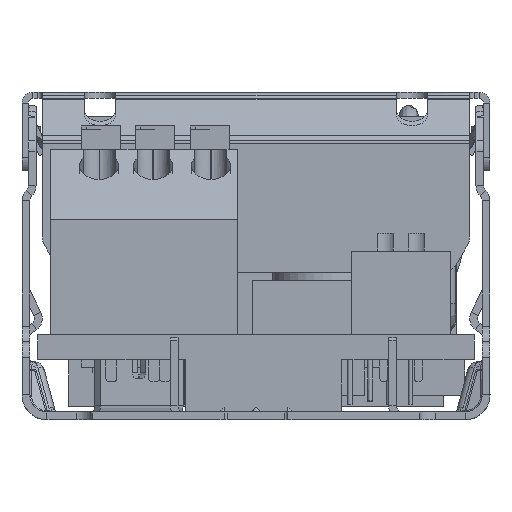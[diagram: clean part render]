
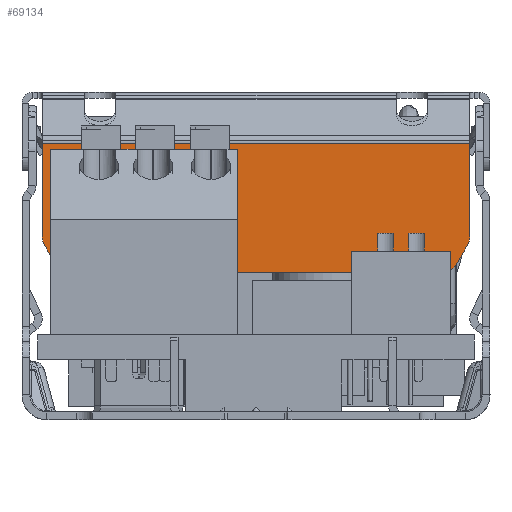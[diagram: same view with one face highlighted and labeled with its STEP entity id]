
A CAD part, left-side view. The second image highlights one B-rep face of the part: STEP entity #69134.
In plain terms, the highlighted planar face has unit normal (-1, 0, 0).
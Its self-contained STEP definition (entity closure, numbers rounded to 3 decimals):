
#63256=DIRECTION('',(0.,1.,0.));
#63257=VECTOR('',#63256,27.4);
#63258=CARTESIAN_POINT('',(-118.772,-12.555,
7.677));
#63259=LINE('',#63258,#63257);
#63264=CARTESIAN_POINT('',(-118.772,-11.555,
1.685));
#63265=DIRECTION('',(1.,0.,0.));
#63266=DIRECTION('',(0.,-1.,0.));
#63267=AXIS2_PLACEMENT_3D('',#63264,#63265,#63266);
#63269=DIRECTION('',(0.,0.5,-0.866));
#63270=VECTOR('',#63269,1.464);
#63271=CARTESIAN_POINT('',(-118.772,-12.421,
1.185));
#63272=LINE('',#63271,#63270);
#63273=CARTESIAN_POINT('',(-118.772,-10.823,
0.417));
#63274=DIRECTION('',(1.,0.,0.));
#63275=DIRECTION('',(0.,-0.866,-0.5));
#63276=AXIS2_PLACEMENT_3D('',#63273,#63274,#63275);
#63278=CARTESIAN_POINT('',(-118.772,13.113,
0.417));
#63279=DIRECTION('',(1.,0.,0.));
#63280=DIRECTION('',(0.,0.,-1.));
#63281=AXIS2_PLACEMENT_3D('',#63278,#63279,#63280);
#63283=DIRECTION('',(0.,0.5,0.866));
#63284=VECTOR('',#63283,1.464);
#63285=CARTESIAN_POINT('',(-118.772,13.979,
-0.083));
#63286=LINE('',#63285,#63284);
#63287=CARTESIAN_POINT('',(-118.772,13.845,
1.685));
#63288=DIRECTION('',(1.,0.,0.));
#63289=DIRECTION('',(0.,0.866,-0.5));
#63290=AXIS2_PLACEMENT_3D('',#63287,#63288,#63289);
#63292=DIRECTION('',(0.,0.,-1.));
#63293=VECTOR('',#63292,5.992);
#63294=CARTESIAN_POINT('',(-118.772,14.845,
7.677));
#63295=LINE('',#63294,#63293);
#63312=DIRECTION('',(0.,-1.,0.));
#63313=VECTOR('',#63312,23.936);
#63314=CARTESIAN_POINT('',(-118.772,13.113,
-0.583));
#63315=LINE('',#63314,#63313);
#63332=DIRECTION('',(0.,0.,1.));
#63333=VECTOR('',#63332,5.992);
#63334=CARTESIAN_POINT('',(-118.772,-12.555,
1.685));
#63335=LINE('',#63334,#63333);
#64921=CARTESIAN_POINT('',(-118.772,-12.555,
7.677));
#64922=VERTEX_POINT('',#64921);
#64925=CARTESIAN_POINT('',(-118.772,14.845,
7.677));
#64926=VERTEX_POINT('',#64925);
#64927=CARTESIAN_POINT('',(-118.772,14.845,
1.685));
#64928=VERTEX_POINT('',#64927);
#64929=CARTESIAN_POINT('',(-118.772,-12.555,
1.685));
#64930=VERTEX_POINT('',#64929);
#64931=CARTESIAN_POINT('',(-118.772,-12.421,
1.185));
#64932=VERTEX_POINT('',#64931);
#64933=CARTESIAN_POINT('',(-118.772,-11.689,
-0.083));
#64934=VERTEX_POINT('',#64933);
#64935=CARTESIAN_POINT('',(-118.772,-10.823,
-0.583));
#64936=VERTEX_POINT('',#64935);
#64937=CARTESIAN_POINT('',(-118.772,13.113,
-0.583));
#64938=VERTEX_POINT('',#64937);
#64939=CARTESIAN_POINT('',(-118.772,13.979,
-0.083));
#64940=VERTEX_POINT('',#64939);
#64941=CARTESIAN_POINT('',(-118.772,14.711,
1.185));
#64942=VERTEX_POINT('',#64941);
#69108=CARTESIAN_POINT('',(-118.772,-6.045,
7.967));
#69109=DIRECTION('',(-1.,0.,0.));
#69110=DIRECTION('',(0.,1.,0.));
#69111=AXIS2_PLACEMENT_3D('',#69108,#69109,#69110);
#69112=PLANE('',#69111);
#69114=ORIENTED_EDGE('',*,*,#69113,.F.);
#69115=ORIENTED_EDGE('',*,*,#69099,.F.);
#69117=ORIENTED_EDGE('',*,*,#69116,.F.);
#69119=ORIENTED_EDGE('',*,*,#69118,.T.);
#69121=ORIENTED_EDGE('',*,*,#69120,.T.);
#69123=ORIENTED_EDGE('',*,*,#69122,.T.);
#69125=ORIENTED_EDGE('',*,*,#69124,.F.);
#69127=ORIENTED_EDGE('',*,*,#69126,.T.);
#69129=ORIENTED_EDGE('',*,*,#69128,.T.);
#69131=ORIENTED_EDGE('',*,*,#69130,.T.);
#69132=EDGE_LOOP('',(#69114,#69115,#69117,#69119,#69121,#69123,#69125,#69127,
#69129,#69131));
#69133=FACE_OUTER_BOUND('',#69132,.F.);
#69134=ADVANCED_FACE('',(#69133),#69112,.T.);
#63268=CIRCLE('',#63267,1.);
#63277=CIRCLE('',#63276,1.);
#63282=CIRCLE('',#63281,1.);
#63291=CIRCLE('',#63290,1.);
#69099=EDGE_CURVE('',#64922,#64926,#63259,.T.);
#69113=EDGE_CURVE('',#64926,#64928,#63295,.T.);
#69116=EDGE_CURVE('',#64930,#64922,#63335,.T.);
#69118=EDGE_CURVE('',#64930,#64932,#63268,.T.);
#69120=EDGE_CURVE('',#64932,#64934,#63272,.T.);
#69122=EDGE_CURVE('',#64934,#64936,#63277,.T.);
#69124=EDGE_CURVE('',#64938,#64936,#63315,.T.);
#69126=EDGE_CURVE('',#64938,#64940,#63282,.T.);
#69128=EDGE_CURVE('',#64940,#64942,#63286,.T.);
#69130=EDGE_CURVE('',#64942,#64928,#63291,.T.);
